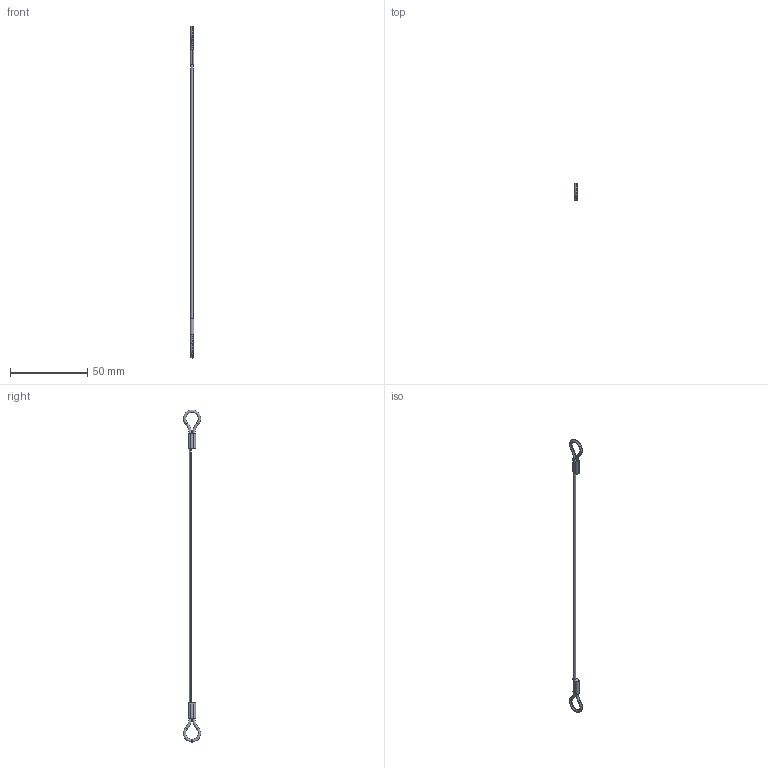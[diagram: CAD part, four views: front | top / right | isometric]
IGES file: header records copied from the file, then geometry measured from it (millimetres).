
Start section: SolidWorks IGES file using analytic representation for surfaces
Global section: file name: C:\Users\ianosborn\Desktop\LA1065_v2\LA1065_v2_20260320_IGES\LA1065.I04-203C1.igs; native system: SolidWorks 2019; preprocessor: SolidWorks 2019; author: IanOsborn; date: 260323.154105; units: millimetre
Bounding box: 2.4 x 11.18 x 214.37 mm (x, y, z)
Surface area: 1449.6 mm2 (no closed solid volume)
Topology: 0 solids, 0 shells, 30 faces, 336 edges, 336 vertices
Faces by surface type: bspline 22, revolution 8
